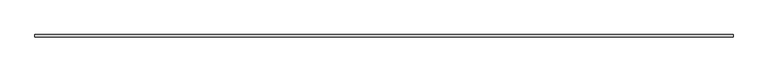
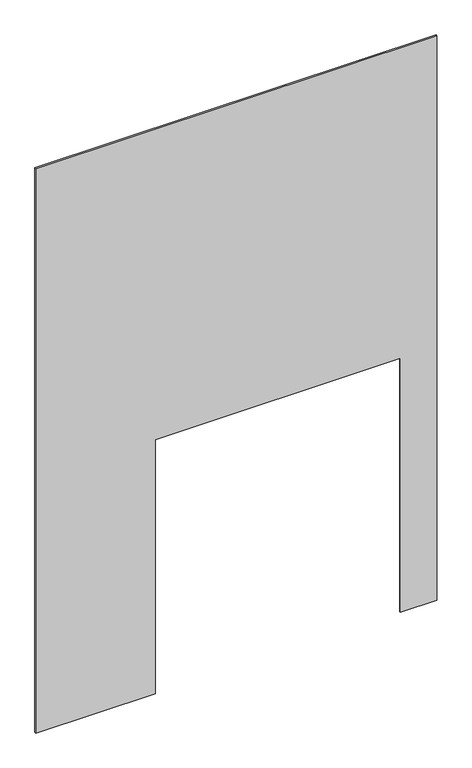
"""IFC4 building model written with IfcOpenShell, lengths in millimetres: plate geometry, システム パネル : 標準."""

from ifc_helpers import new_model, si_unit, frame, origin, place, context, project, spatial, polyline, outline, extrude, source, transform, mapped, element, save


def plate_19a950bd(model_context):
    return source(origin(), model_context, "Body", "SweptSolid", [
        extrude(outline(polyline([(0.0, -1512.5), (0.0, -612.5), (2025.0, -612.5), (2025.0, 1237.5), (0.0, 1237.5), (0.0, 1512.5), (4500.0, 1512.5), (4500.0, -1512.5), (0.0, -1512.5)])), frame((0.0, -5.0, 0.0), z_axis=(0.0, 1.0, 0.0), x_axis=(0.0, 0.0, 1.0)), (0.0, 0.0, 1.0), 10.0),
    ])


if __name__ == "__main__":
    model = new_model("IFC4")
    model_context = context("Model", 3, world=origin())
    ifc_project = project(units=[si_unit("LENGTHUNIT", "METRE", prefix="MILLI")], contexts=[model_context])
    site = spatial("IfcSite", under=ifc_project)
    building = spatial("IfcBuilding", under=site)
    placement = place(None, origin())
    plate_shape = plate_19a950bd(model_context)
    element("IfcPlate", 1, ObjectType="システム パネル : 標準", at=placement, inside=building, context=model_context, shape_type="MappedRepresentation", body=[
        mapped(plate_shape, transform((0.0, 0.0, 0.0), x_axis=(1.0, 0.0, 0.0), y_axis=(0.0, 1.0, 0.0), z_axis=(0.0, 0.0, 1.0))),
    ])
    save(model, "model.ifc")
